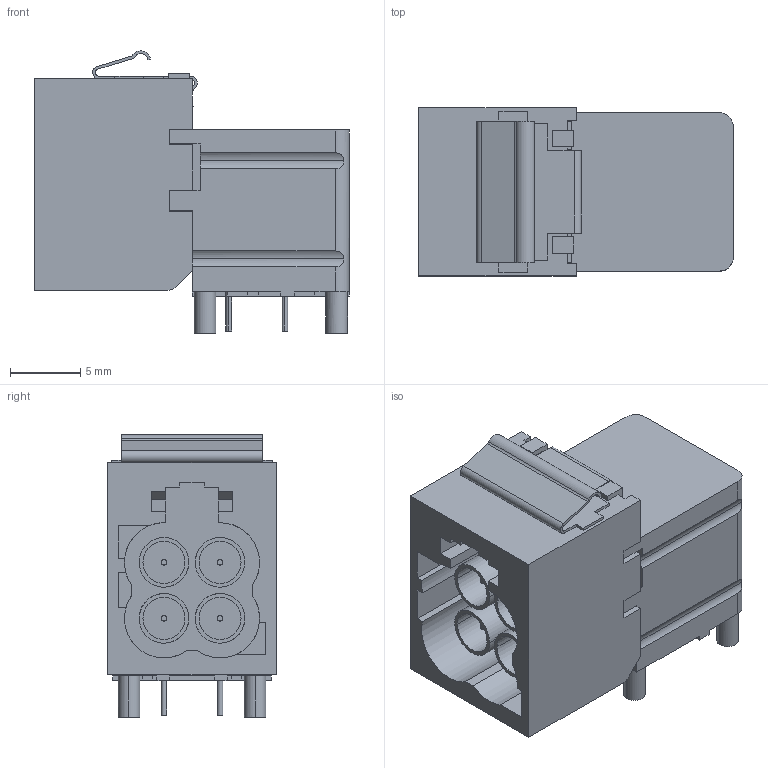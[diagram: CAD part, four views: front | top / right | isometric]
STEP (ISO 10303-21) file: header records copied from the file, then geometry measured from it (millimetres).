
FILE_DESCRIPTION(('CATIA V5 STEP','CAx-IF Rec.Pracs.--- Model Styling and Organization---1.5--- 2016-08-15','CAx-IF Rec.Pracs.---Supplemental Geometry---1.0---2011-11-01','CAx-IF Rec.Pracs.--- Composite Materials ---1.1---2010-07-15'),'2;1');
FILE_NAME('\\fss02.ad.sws.co.jp\fs100070\事務・購入\特命業務\特-35ｰ部品総合カタログメンテナンス\26年度\WEBカタログ用3D\260612_webカタログ新規登録用簡易3D\モデル保存場所\HFC5シリーズ\6099-1550.stp','2026-06-24T10:06:32+00:00',('none'),('none'),'CATIA Version 5-6 Release 2022 SP2 HF23','CATIA V5 STEP AP214 v2','none');
FILE_SCHEMA(('AUTOMOTIVE_DESIGN { 1 0 10303 214 1 1 1 1 }'));
Length unit declared in the file: millimetre
Products named in the file (1): 6099-1550
Bounding box: 22.45 x 12 x 20.15 mm (x, y, z)
Volume: 2648.1 mm3; surface area: 2921.6 mm2
Topology: 1 solids, 1 shells, 277 faces, 781 edges, 526 vertices
Faces by surface type: plane 206, cylinder 71
Entity records: 8528 total; most frequent: CARTESIAN_POINT 1829, ORIENTED_EDGE 1562, DIRECTION 1073, EDGE_CURVE 781, VECTOR 621, LINE 621, VERTEX_POINT 526, EDGE_LOOP 299
